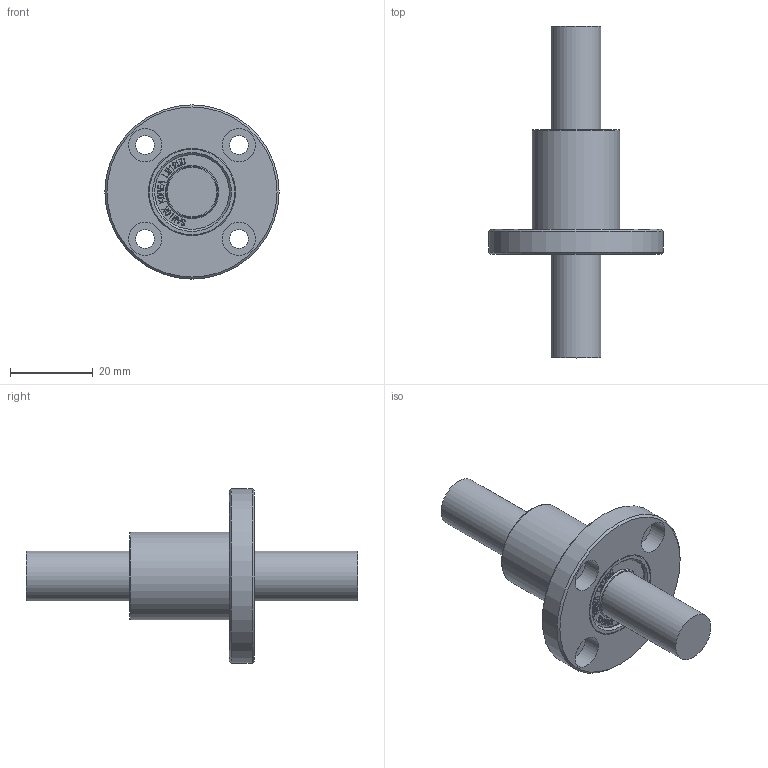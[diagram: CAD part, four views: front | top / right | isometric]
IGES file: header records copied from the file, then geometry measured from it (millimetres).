
Global section: file name: No Iges File Name specified; native system: Autodesk Inventor 2012; preprocessor: AutoDesk Inventor Iges Exporter R2012; author: user2; date: 20130206.160212; units: millimetre
Bounding box: 42 x 80 x 42 mm (x, y, z)
Volume: 21033.7 mm3; surface area: 7505.4 mm2
Topology: 1 solids, 1 shells, 835 faces, 2333 edges, 1554 vertices
Faces by surface type: bspline 580, plane 232, revolution 13, cone 4, cylinder 4, torus 2
Full cylindrical faces by diameter (mm): 12 x2, 21 x1, 42 x1
